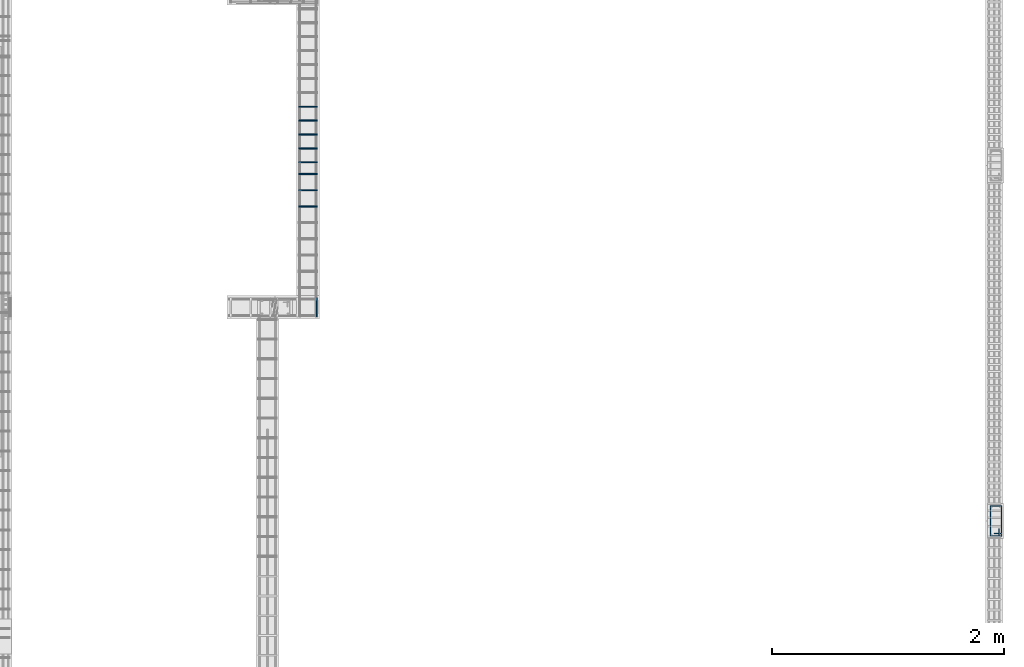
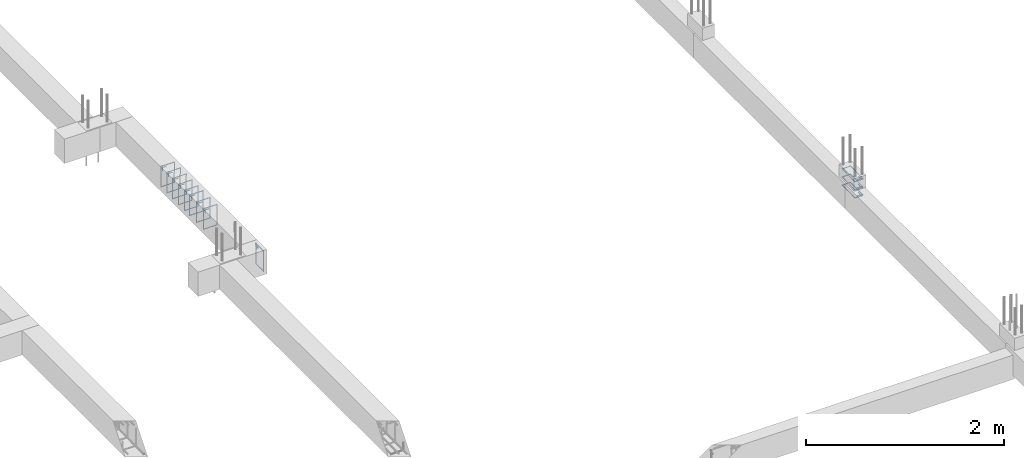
# One storey, part 96 of 150: 12 reinforcing bars.
"""IFC4 building model written with IfcOpenShell, lengths in centimetres."""

import ifcopenshell
import ifcopenshell.guid

model = None  # the IFC model being written
_history = None  # IfcOwnerHistory: only IFC2X3 demands one
_inside = {}  # id of a spatial element -> (the spatial element, [elements in it])
_under = {}  # id of a project, library or spatial element -> (it, [spatial elements below it])
_declared = {}  # id of a project -> (the project, [libraries it declares])
_typed = {}  # id of a type object -> (the type object, [elements of that type])
_made_of = {}  # id of a material, layer set ... -> (it, [elements and type objects made of it])


def new_model(schema):
    """Start an empty IFC model of exactly this schema.

    Asked for "IFC4X3", IfcOpenShell would pick the latest addendum, in which some entities
    have other attributes; the version numbers below select the first issue.
    IFC2X3 requires an IfcOwnerHistory on every rooted entity: one is made here for all.
    """
    global model, _history
    if schema == "IFC4X3":
        model = ifcopenshell.file(schema_version=(4, 3, 0, 0))
    else:
        model = ifcopenshell.file(schema=schema)
    _inside.clear()
    _under.clear()
    _declared.clear()
    _typed.clear()
    _made_of.clear()
    _history = None
    if model.schema == "IFC2X3":
        org = make("IfcOrganization", Name="unknown")
        user = make(
            "IfcPersonAndOrganization",
            ThePerson=make("IfcPerson", FamilyName="unknown"),
            TheOrganization=org,
        )
        app = make(
            "IfcApplication",
            ApplicationDeveloper=org,
            Version="unknown",
            ApplicationFullName="unknown",
            ApplicationIdentifier="unknown",
        )
        _history = make(
            "IfcOwnerHistory",
            OwningUser=user,
            OwningApplication=app,
            ChangeAction="ADDED",
            CreationDate=0,
        )
    return model


def make(cls, **values):
    """One entity of the class cls with the attributes given. An attribute that is None is left unset."""
    return model.create_entity(
        cls, **{name: value for name, value in values.items() if value is not None}
    )


def entity(cls, *values):
    """Any entity or typed value of the class cls, its attributes in the order of the schema. None: left unset."""
    e = model.create_entity(cls)
    for i, value in enumerate(values):
        if value is not None:
            e[i] = value
    return e


def rooted(cls, **values):
    """An entity with a GlobalId (a new one), such as an element, a storey or a relation."""
    return make(cls, GlobalId=ifcopenshell.guid.new(), OwnerHistory=_history, **values)


def si_unit(unit_type, name, prefix=None):
    """IfcSIUnit, for example si_unit("LENGTHUNIT", "METRE", prefix="MILLI")."""
    return make("IfcSIUnit", UnitType=unit_type, Prefix=prefix, Name=name)


def derived_unit(unit_type, elements):
    """IfcDerivedUnit: a product of units, each with its exponent."""
    return make(
        "IfcDerivedUnit",
        Elements=[
            make("IfcDerivedUnitElement", Unit=unit, Exponent=power)
            for unit, power in elements
        ],
        UnitType=unit_type,
    )


def assignment(units):
    """IfcUnitAssignment: the units of a project."""
    return None if units is None else make("IfcUnitAssignment", Units=units)


def point(xyz):
    """IfcCartesianPoint."""
    return None if xyz is None else make("IfcCartesianPoint", Coordinates=xyz)


def direction(xyz):
    """IfcDirection."""
    return None if xyz is None else make("IfcDirection", DirectionRatios=xyz)


def frame(location, z_axis=None, x_axis=None):
    """IfcAxis2Placement3D, a coordinate frame: its origin and axes. An axis left out is left unset."""
    return make(
        "IfcAxis2Placement3D",
        Location=point(location),
        Axis=direction(z_axis),
        RefDirection=direction(x_axis),
    )


def origin_with_axes():
    """The frame at (0, 0, 0) with the z axis (0, 0, 1) and the x axis (1, 0, 0) written out."""
    return frame((0.0, 0.0, 0.0), z_axis=(0.0, 0.0, 1.0), x_axis=(1.0, 0.0, 0.0))


def place(relative_to, where):
    """IfcLocalPlacement: puts the frame where relative to a parent placement (None: the world)."""
    return make(
        "IfcLocalPlacement", PlacementRelTo=relative_to, RelativePlacement=where
    )


def context(
    kind, dimensions, precision=None, world=None, true_north=None, identifier=None
):
    """IfcGeometricRepresentationContext, for example the 3D "Model" context."""
    return make(
        "IfcGeometricRepresentationContext",
        ContextIdentifier=identifier,
        ContextType=kind,
        CoordinateSpaceDimension=dimensions,
        Precision=precision,
        WorldCoordinateSystem=world,
        TrueNorth=true_north,
    )


def project(units=None, contexts=None):
    """IfcProject with its units and contexts."""
    return rooted(
        "IfcProject",
        Name="project",
        RepresentationContexts=contexts,
        UnitsInContext=assignment(units),
    )


def spatial(cls, under=None, at=None, **own):
    """A site, building, storey or space (cls), placed at a placement, below another one or the project."""
    s = rooted(cls, ObjectPlacement=at, **own)
    if under is not None:
        _under.setdefault(under.id(), (under, []))[1].append(s)
    return s


def shape(context_of_items, identifier, shape_type, items):
    """IfcShapeRepresentation: the items that make up one representation, for example the "Body"."""
    return make(
        "IfcShapeRepresentation",
        ContextOfItems=context_of_items,
        RepresentationIdentifier=identifier,
        RepresentationType=shape_type,
        Items=items,
    )


def source(mapping_origin, context_of_items, identifier, shape_type, items):
    """IfcRepresentationMap: a shape defined once, which mapped items show again and again."""
    return make(
        "IfcRepresentationMap",
        MappingOrigin=mapping_origin,
        MappedRepresentation=shape(context_of_items, identifier, shape_type, items),
    )


def transform(
    local_origin,
    x_axis=None,
    y_axis=None,
    z_axis=None,
    scale=None,
    scale2=None,
    scale3=None,
    uniform=True,
):
    """IfcCartesianTransformationOperator3D, or its non-uniform kind. x_axis, y_axis, z_axis: its Axis1, 2, 3."""
    if uniform:
        return make(
            "IfcCartesianTransformationOperator3D",
            Axis1=direction(x_axis),
            Axis2=direction(y_axis),
            LocalOrigin=point(local_origin),
            Scale=scale,
            Axis3=direction(z_axis),
        )
    return make(
        "IfcCartesianTransformationOperator3DnonUniform",
        Axis1=direction(x_axis),
        Axis2=direction(y_axis),
        LocalOrigin=point(local_origin),
        Scale=scale,
        Axis3=direction(z_axis),
        Scale2=scale2,
        Scale3=scale3,
    )


def mapped(mapping_source, mapping_target):
    """IfcMappedItem: shows the shape of a source again, moved by a transform."""
    return make(
        "IfcMappedItem", MappingSource=mapping_source, MappingTarget=mapping_target
    )


def made_of(thing, what):
    """Note that an element or type object is made of a material, layer set ...; save() writes the relation."""
    if what is not None:
        _made_of.setdefault(what.id(), (what, []))[1].append(thing)
    return thing


def element(
    cls,
    number,
    at=None,
    inside=None,
    cuts=None,
    type_object=None,
    material=None,
    context=None,
    identifier="Body",
    shape_type=None,
    held_by="IfcProductDefinitionShape",
    body=None,
    shapes=None,
    **own,
):
    """One element of the class cls, such as IfcWall. Its Tag is "e" and its number.

    at: its placement. inside: the storey or other place that contains it. cuts: it is an
    opening in that element (IfcRelVoidsElement). A single representation is given by context,
    identifier, shape_type and body (its items); several are given by shapes. held_by: the class
    of the entity that holds the representations. save() writes the other relations.
    """
    e = rooted(cls, Tag="e%d" % number, ObjectPlacement=at, **own)
    if body is not None:
        shapes = [shape(context, identifier, shape_type, body)]
    if shapes is not None:
        e.Representation = make(held_by, Representations=shapes)
    if inside is not None:
        _inside.setdefault(inside.id(), (inside, []))[1].append(e)
    if cuts is not None:
        rooted(
            "IfcRelVoidsElement", RelatingBuildingElement=cuts, RelatedOpeningElement=e
        )
    if type_object is not None:
        _typed.setdefault(type_object.id(), (type_object, []))[1].append(e)
    return made_of(e, material)


def aggregate(whole, parts):
    """IfcRelAggregates: a whole, such as a stair, and the parts it consists of."""
    return rooted("IfcRelAggregates", RelatingObject=whole, RelatedObjects=parts)


def save(model, path):
    """Write the relations noted so far, then the file.

    IfcRelAggregates (storeys below a building ...), IfcRelContainedInSpatialStructure (elements
    in a storey), IfcRelDefinesByType, IfcRelAssociatesMaterial and IfcRelDeclares: one each for
    every whole, place, type object, material and project.
    """
    for whole, parts in _under.values():
        aggregate(whole, parts)
    for where, things in _inside.values():
        rooted(
            "IfcRelContainedInSpatialStructure",
            RelatedElements=things,
            RelatingStructure=where,
        )
    for kind, things in _typed.values():
        rooted("IfcRelDefinesByType", RelatedObjects=things, RelatingType=kind)
    for what, things in _made_of.values():
        rooted("IfcRelAssociatesMaterial", RelatedObjects=things, RelatingMaterial=what)
    for by, libraries in _declared.values():
        rooted("IfcRelDeclares", RelatingContext=by, RelatedDefinitions=libraries)
    model.write(path)


model = new_model("IFC4")

# Units and contexts
model_context = context("Model", 3, precision=1e-05, world=origin_with_axes(), identifier="Body")
ifc_project = project(units=[si_unit("LENGTHUNIT", "METRE", prefix="CENTI"), si_unit("VOLUMEUNIT", "CUBIC_METRE"), si_unit("AREAUNIT", "SQUARE_METRE"), si_unit("POWERUNIT", "WATT"), si_unit("LUMINOUSFLUXUNIT", "LUMEN"), si_unit("ELECTRICCURRENTUNIT", "AMPERE"), si_unit("PRESSUREUNIT", "PASCAL", prefix="KILO"), si_unit("MASSUNIT", "GRAM", prefix="KILO"), si_unit("PLANEANGLEUNIT", "RADIAN"), derived_unit("VOLUMETRICFLOWRATEUNIT", [(si_unit("LENGTHUNIT", "METRE"), 3), (si_unit("TIMEUNIT", "SECOND"), -1)])], contexts=[model_context])

# Site, building, storey
site_placement = place(None, frame((-4000.0, 0.0, 0.0), z_axis=(0.0, 0.0, 1.0), x_axis=(1.0, 0.0, 0.0)))
site = spatial("IfcSite", under=ifc_project, at=site_placement, Name="PADRÃO")
building_placement = place(site_placement, frame((0.0, 0.0, -14.0)))
building = spatial("IfcBuilding", under=site, at=building_placement, Name="CRECHE PRÉ-ESCOLA TIPO 2")
placement = place(building_placement, origin_with_axes())
storey_placement = place(placement, frame((0.0, 0.0, 30.0), z_axis=(0.0, 0.0, 1.0), x_axis=(1.0, 0.0, 0.0)))
storey = spatial("IfcBuildingStorey", under=building, at=storey_placement, Name="VIGA BALDRAME", CompositionType="ELEMENT", Elevation=16.0)

# Reinforcing bars
shared_shape_1 = source(origin_with_axes(), model_context, "Body", "AdvancedSweptSolid", [
    entity("IfcSweptDiskSolid", entity("IfcCompositeCurve", [entity("IfcCompositeCurveSegment", "CONTINUOUS", True, entity("IfcPolyline", [entity("IfcCartesianPoint", [4.25, 21.75, 0.0]), entity("IfcCartesianPoint", [4.25, 27.75, 0.0])])), entity("IfcCompositeCurveSegment", "CONTINUOUS", True, entity("IfcPolyline", [entity("IfcCartesianPoint", [4.25, 27.75, 0.0]), entity("IfcCartesianPoint", [2.25, 27.75, 0.0])])), entity("IfcCompositeCurveSegment", "CONTINUOUS", True, entity("IfcPolyline", [entity("IfcCartesianPoint", [2.25, 27.75, 0.0]), entity("IfcCartesianPoint", [2.25, 2.25, 0.0])])), entity("IfcCompositeCurveSegment", "CONTINUOUS", True, entity("IfcPolyline", [entity("IfcCartesianPoint", [2.25, 2.25, 0.0]), entity("IfcCartesianPoint", [11.75, 2.25, 0.0])])), entity("IfcCompositeCurveSegment", "CONTINUOUS", True, entity("IfcPolyline", [entity("IfcCartesianPoint", [11.75, 2.25, 0.0]), entity("IfcCartesianPoint", [11.75, 27.75, -0.5])])), entity("IfcCompositeCurveSegment", "CONTINUOUS", True, entity("IfcPolyline", [entity("IfcCartesianPoint", [11.75, 27.75, -0.5]), entity("IfcCartesianPoint", [2.25, 27.75, -0.5])])), entity("IfcCompositeCurveSegment", "CONTINUOUS", True, entity("IfcPolyline", [entity("IfcCartesianPoint", [2.25, 27.75, -0.5]), entity("IfcCartesianPoint", [2.25, 25.75, -0.5])])), entity("IfcCompositeCurveSegment", "CONTINUOUS", True, entity("IfcPolyline", [entity("IfcCartesianPoint", [2.25, 25.75, -0.5]), entity("IfcCartesianPoint", [8.25, 25.75, -0.5])]))], False), 0.25),
])
for number, where, z_axis, x_axis, name in (
    (1, (4000.0, 861.11, -5.0), (0.0, 0.0, 1.0), (-1.0, 0.0, 0.0), "P130 - Estribo"),
    (2, (4000.0, 861.11, -15.0), (0.0, 0.0, 1.0), (-1.0, 0.0, 0.0), "P130 - Estribo"),
    (3, (4000.0, 861.11, -25.0), (0.0, 0.0, 1.0), (-1.0, 0.0, 0.0), "P130 - Estribo"),
):
    element("IfcReinforcingBar", number, at=place(storey_placement, frame(where, z_axis=z_axis, x_axis=x_axis)), inside=storey, Name=name, BarLength=0.0, CrossSectionArea=1.9634954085e-05, NominalDiameter=0.5, PredefinedType="MAIN", context=model_context, shape_type="MappedRepresentation", body=[
        mapped(shared_shape_1, transform((0.0, 0.0, 0.0), scale=1.0)),
    ])
shared_shape_2 = source(origin_with_axes(), model_context, "Body", "AdvancedSweptSolid", [
    entity("IfcSweptDiskSolid", entity("IfcCompositeCurve", [entity("IfcCompositeCurveSegment", "CONTINUOUS", True, entity("IfcPolyline", [entity("IfcCartesianPoint", [2.0, -6.0, 0.0]), entity("IfcCartesianPoint", [2.0, 0.0, 0.0])])), entity("IfcCompositeCurveSegment", "CONTINUOUS", True, entity("IfcPolyline", [entity("IfcCartesianPoint", [2.0, 0.0, 0.0]), entity("IfcCartesianPoint", [0.0, 0.0, 0.0])])), entity("IfcCompositeCurveSegment", "CONTINUOUS", True, entity("IfcPolyline", [entity("IfcCartesianPoint", [0.0, 0.0, 0.0]), entity("IfcCartesianPoint", [0.0, -25.5, 0.0])])), entity("IfcCompositeCurveSegment", "CONTINUOUS", True, entity("IfcPolyline", [entity("IfcCartesianPoint", [0.0, -25.5, 0.0]), entity("IfcCartesianPoint", [15.5, -25.5, 0.0])])), entity("IfcCompositeCurveSegment", "CONTINUOUS", True, entity("IfcPolyline", [entity("IfcCartesianPoint", [15.5, -25.5, 0.0]), entity("IfcCartesianPoint", [15.5, 0.0, 0.5])])), entity("IfcCompositeCurveSegment", "CONTINUOUS", True, entity("IfcPolyline", [entity("IfcCartesianPoint", [15.5, 0.0, 0.5]), entity("IfcCartesianPoint", [0.0, 0.0, 0.5])])), entity("IfcCompositeCurveSegment", "CONTINUOUS", True, entity("IfcPolyline", [entity("IfcCartesianPoint", [0.0, 0.0, 0.5]), entity("IfcCartesianPoint", [0.0, -2.0, 0.5])])), entity("IfcCompositeCurveSegment", "CONTINUOUS", True, entity("IfcPolyline", [entity("IfcCartesianPoint", [0.0, -2.0, 0.5]), entity("IfcCartesianPoint", [6.0, -2.0, 0.5])]))], False), 0.25),
])
for number, where, z_axis, x_axis, name in (
    (4, (3393.23, 1145.08, -2.25), (0.0, -1.0, 0.0), (1.0, 0.0, 0.0), "V225 - Estribo"),
    (5, (3393.23, 1131.08, -2.25), (0.0, -1.0, 0.0), (1.0, 0.0, 0.0), "V225 - Estribo"),
    (6, (3393.23, 1117.08, -2.25), (0.0, -1.0, 0.0), (1.0, 0.0, 0.0), "V225 - Estribo"),
):
    element("IfcReinforcingBar", number, at=place(storey_placement, frame(where, z_axis=z_axis, x_axis=x_axis)), inside=storey, Name=name, BarLength=0.0, CrossSectionArea=1.9634954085e-05, NominalDiameter=0.5, PredefinedType="MAIN", context=model_context, shape_type="MappedRepresentation", body=[
        mapped(shared_shape_2, transform((0.0, 0.0, 0.0), scale=1.0)),
    ])
shared_shape_3 = source(origin_with_axes(), model_context, "Body", "AdvancedSweptSolid", [
    entity("IfcSweptDiskSolid", entity("IfcCompositeCurve", [entity("IfcCompositeCurveSegment", "CONTINUOUS", True, entity("IfcPolyline", [entity("IfcCartesianPoint", [2.0, -6.0, 0.0]), entity("IfcCartesianPoint", [2.0, 0.0, 0.0])])), entity("IfcCompositeCurveSegment", "CONTINUOUS", True, entity("IfcPolyline", [entity("IfcCartesianPoint", [2.0, 0.0, 0.0]), entity("IfcCartesianPoint", [0.0, 0.0, 0.0])])), entity("IfcCompositeCurveSegment", "CONTINUOUS", True, entity("IfcPolyline", [entity("IfcCartesianPoint", [0.0, 0.0, 0.0]), entity("IfcCartesianPoint", [0.0, -25.5, 0.0])])), entity("IfcCompositeCurveSegment", "CONTINUOUS", True, entity("IfcPolyline", [entity("IfcCartesianPoint", [0.0, -25.5, 0.0]), entity("IfcCartesianPoint", [15.5, -25.5, 0.0])])), entity("IfcCompositeCurveSegment", "CONTINUOUS", True, entity("IfcPolyline", [entity("IfcCartesianPoint", [15.5, -25.5, 0.0]), entity("IfcCartesianPoint", [15.5, 0.0, 0.5])])), entity("IfcCompositeCurveSegment", "CONTINUOUS", True, entity("IfcPolyline", [entity("IfcCartesianPoint", [15.5, 0.0, 0.5]), entity("IfcCartesianPoint", [0.0, 0.0, 0.5])])), entity("IfcCompositeCurveSegment", "CONTINUOUS", True, entity("IfcPolyline", [entity("IfcCartesianPoint", [0.0, 0.0, 0.5]), entity("IfcCartesianPoint", [0.0, -2.0, 0.5])])), entity("IfcCompositeCurveSegment", "CONTINUOUS", True, entity("IfcPolyline", [entity("IfcCartesianPoint", [0.0, -2.0, 0.5]), entity("IfcCartesianPoint", [6.0, -2.0, 0.5])]))], False), 0.25),
])
for number, where, z_axis, x_axis, name in (
    (7, (3393.23, 1191.085, -2.25), (0.0, -1.0, 0.0), (1.0, 0.0, 0.0), "V225 - Estribo"),
    (8, (3393.23, 1179.085, -2.25), (0.0, -1.0, 0.0), (1.0, 0.0, 0.0), "V225 - Estribo"),
    (9, (3393.23, 1167.085, -2.25), (0.0, -1.0, 0.0), (1.0, 0.0, 0.0), "V225 - Estribo"),
    (10, (3393.23, 1155.085, -2.25), (0.0, -1.0, 0.0), (1.0, 0.0, 0.0), "V225 - Estribo"),
    (11, (3393.23, 1203.085, -2.25), (0.0, -1.0, 0.0), (1.0, 0.0, 0.0), "V225 - Estribo"),
):
    element("IfcReinforcingBar", number, at=place(storey_placement, frame(where, z_axis=z_axis, x_axis=x_axis)), inside=storey, Name=name, BarLength=0.0, CrossSectionArea=1.9634954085e-05, NominalDiameter=0.5, PredefinedType="MAIN", context=model_context, shape_type="MappedRepresentation", body=[
        mapped(shared_shape_3, transform((0.0, 0.0, 0.0), scale=1.0)),
    ])
shared_shape_4 = source(origin_with_axes(), model_context, "Body", "AdvancedSweptSolid", [
    entity("IfcSweptDiskSolid", entity("IfcCompositeCurve", [entity("IfcCompositeCurveSegment", "CONTINUOUS", True, entity("IfcPolyline", [entity("IfcCartesianPoint", [2.0, -6.0, 0.0]), entity("IfcCartesianPoint", [2.0, 0.0, 0.0])])), entity("IfcCompositeCurveSegment", "CONTINUOUS", True, entity("IfcPolyline", [entity("IfcCartesianPoint", [2.0, 0.0, 0.0]), entity("IfcCartesianPoint", [0.0, 0.0, 0.0])])), entity("IfcCompositeCurveSegment", "CONTINUOUS", True, entity("IfcPolyline", [entity("IfcCartesianPoint", [0.0, 0.0, 0.0]), entity("IfcCartesianPoint", [0.0, -25.5, 0.0])])), entity("IfcCompositeCurveSegment", "CONTINUOUS", True, entity("IfcPolyline", [entity("IfcCartesianPoint", [0.0, -25.5, 0.0]), entity("IfcCartesianPoint", [15.5, -25.5, 0.0])])), entity("IfcCompositeCurveSegment", "CONTINUOUS", True, entity("IfcPolyline", [entity("IfcCartesianPoint", [15.5, -25.5, 0.0]), entity("IfcCartesianPoint", [15.5, 0.0, 0.5])])), entity("IfcCompositeCurveSegment", "CONTINUOUS", True, entity("IfcPolyline", [entity("IfcCartesianPoint", [15.5, 0.0, 0.5]), entity("IfcCartesianPoint", [0.0, 0.0, 0.5])])), entity("IfcCompositeCurveSegment", "CONTINUOUS", True, entity("IfcPolyline", [entity("IfcCartesianPoint", [0.0, 0.0, 0.5]), entity("IfcCartesianPoint", [0.0, -2.0, 0.5])])), entity("IfcCompositeCurveSegment", "CONTINUOUS", True, entity("IfcPolyline", [entity("IfcCartesianPoint", [0.0, -2.0, 0.5]), entity("IfcCartesianPoint", [6.0, -2.0, 0.5])]))], False), 0.25),
])
reinforcing_bar_placement = place(storey_placement, frame((3408.74, 1037.83, -2.25), z_axis=(-1.0, 0.0, 0.0), x_axis=(0.0, -1.0, 0.0)))
element("IfcReinforcingBar", 12, at=reinforcing_bar_placement, inside=storey, Name="V144 - Estribo", BarLength=0.0, CrossSectionArea=1.9634954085e-05, NominalDiameter=0.5, PredefinedType="MAIN", context=model_context, shape_type="MappedRepresentation", body=[
    mapped(shared_shape_4, transform((0.0, 0.0, 0.0), scale=1.0)),
])

save(model, "model.ifc")
